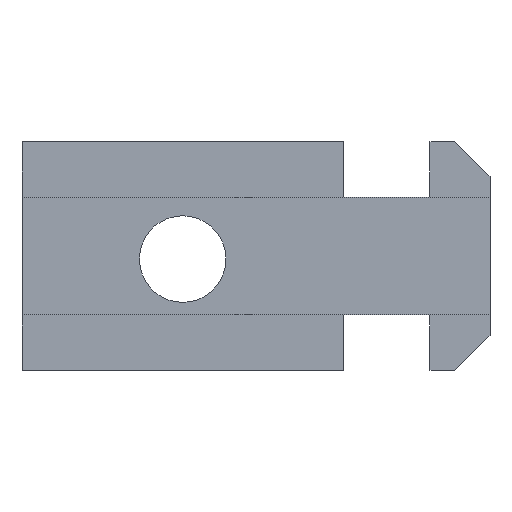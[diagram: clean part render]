
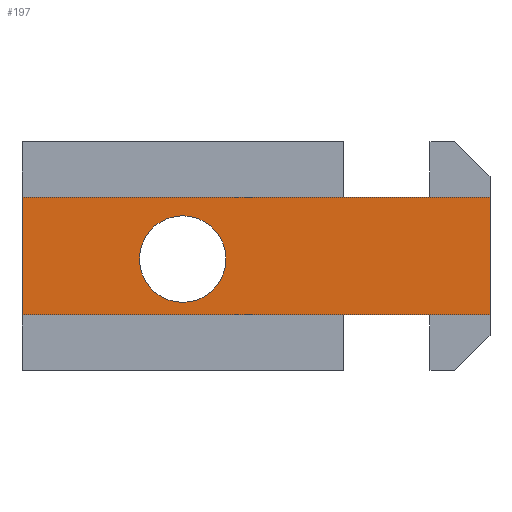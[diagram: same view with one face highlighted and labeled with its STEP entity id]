
A CAD part, front view. The second image highlights one B-rep face of the part: STEP entity #197.
In plain terms, the highlighted planar face has unit normal (0, -1, 0).
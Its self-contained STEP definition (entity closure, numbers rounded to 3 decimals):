
#3 = LINE ( 'NONE', #605, #625 ) ;
#27 = LINE ( 'NONE', #119, #377 ) ;
#64 = EDGE_CURVE ( 'NONE', #395, #106, #27, .T. ) ;
#65 = CARTESIAN_POINT ( 'NONE',  ( -38.256, -3.5, -20.034 ) ) ;
#67 = EDGE_CURVE ( 'NONE', #661, #662, #1034, .T. ) ;
#68 = EDGE_CURVE ( 'NONE', #106, #975, #597, .T. ) ;
#69 = FACE_OUTER_BOUND ( 'NONE', #751, .T. ) ;
#80 = CARTESIAN_POINT ( 'NONE',  ( -25.256, -3.5, -19.018 ) ) ;
#106 = VERTEX_POINT ( 'NONE', #281 ) ;
#119 = CARTESIAN_POINT ( 'NONE',  ( -38.256, -3.5, -20.034 ) ) ;
#130 = EDGE_CURVE ( 'NONE', #662, #661, #1007, .T. ) ;
#131 = AXIS2_PLACEMENT_3D ( 'NONE', #399, #650, #156 ) ;
#156 = DIRECTION ( 'NONE',  ( 0., 0., 1. ) ) ;
#197 = ADVANCED_FACE ( 'NONE', ( #276, #69 ), #559, .F. ) ;
#264 = ORIENTED_EDGE ( 'NONE', *, *, #130, .F. ) ;
#276 = FACE_BOUND ( 'NONE', #330, .T. ) ;
#281 = CARTESIAN_POINT ( 'NONE',  ( -38.256, -3.5, -10.523 ) ) ;
#330 = EDGE_LOOP ( 'NONE', ( #926, #264 ) ) ;
#350 = EDGE_CURVE ( 'NONE', #395, #835, #748, .T. ) ;
#362 = CARTESIAN_POINT ( 'NONE',  ( -25.256, -3.5, -15.518 ) ) ;
#377 = VECTOR ( 'NONE', #519, 1000. ) ;
#392 = CARTESIAN_POINT ( 'NONE',  ( -25.256, -3.5, -15.518 ) ) ;
#395 = VERTEX_POINT ( 'NONE', #65 ) ;
#399 = CARTESIAN_POINT ( 'NONE',  ( 0., -3.5, 0. ) ) ;
#440 = DIRECTION ( 'NONE',  ( 0., 0., -1. ) ) ;
#468 = DIRECTION ( 'NONE',  ( 0., 0., -1. ) ) ;
#507 = CARTESIAN_POINT ( 'NONE',  ( -0.401, -3.5, -20.034 ) ) ;
#519 = DIRECTION ( 'NONE',  ( 0., 0., 1. ) ) ;
#526 = VECTOR ( 'NONE', #890, 1000. ) ;
#559 = PLANE ( 'NONE',  #131 ) ;
#564 = CARTESIAN_POINT ( 'NONE',  ( -25.256, -3.5, -12.018 ) ) ;
#582 = ORIENTED_EDGE ( 'NONE', *, *, #756, .T. ) ;
#597 = LINE ( 'NONE', #860, #792 ) ;
#605 = CARTESIAN_POINT ( 'NONE',  ( -0.401, -3.5, -20.034 ) ) ;
#625 = VECTOR ( 'NONE', #934, 1000. ) ;
#642 = CARTESIAN_POINT ( 'NONE',  ( -0.401, -3.5, -10.523 ) ) ;
#650 = DIRECTION ( 'NONE',  ( 0., 1., 0. ) ) ;
#661 = VERTEX_POINT ( 'NONE', #80 ) ;
#662 = VERTEX_POINT ( 'NONE', #564 ) ;
#683 = ORIENTED_EDGE ( 'NONE', *, *, #350, .T. ) ;
#748 = LINE ( 'NONE', #1047, #526 ) ;
#751 = EDGE_LOOP ( 'NONE', ( #852, #683, #582, #810 ) ) ;
#756 = EDGE_CURVE ( 'NONE', #835, #975, #3, .T. ) ;
#786 = AXIS2_PLACEMENT_3D ( 'NONE', #392, #967, #468 ) ;
#792 = VECTOR ( 'NONE', #858, 1000. ) ;
#810 = ORIENTED_EDGE ( 'NONE', *, *, #68, .F. ) ;
#835 = VERTEX_POINT ( 'NONE', #507 ) ;
#846 = AXIS2_PLACEMENT_3D ( 'NONE', #362, #939, #440 ) ;
#852 = ORIENTED_EDGE ( 'NONE', *, *, #64, .F. ) ;
#858 = DIRECTION ( 'NONE',  ( 1., 0., 0. ) ) ;
#860 = CARTESIAN_POINT ( 'NONE',  ( -38.256, -3.5, -10.523 ) ) ;
#890 = DIRECTION ( 'NONE',  ( 1., 0., 0. ) ) ;
#926 = ORIENTED_EDGE ( 'NONE', *, *, #67, .F. ) ;
#934 = DIRECTION ( 'NONE',  ( 0., 0., 1. ) ) ;
#939 = DIRECTION ( 'NONE',  ( 0., -1., 0. ) ) ;
#967 = DIRECTION ( 'NONE',  ( 0., -1., 0. ) ) ;
#975 = VERTEX_POINT ( 'NONE', #642 ) ;
#1007 = CIRCLE ( 'NONE', #786, 3.5 ) ;
#1034 = CIRCLE ( 'NONE', #846, 3.5 ) ;
#1047 = CARTESIAN_POINT ( 'NONE',  ( -5.254, -3.5, -20.034 ) ) ;
